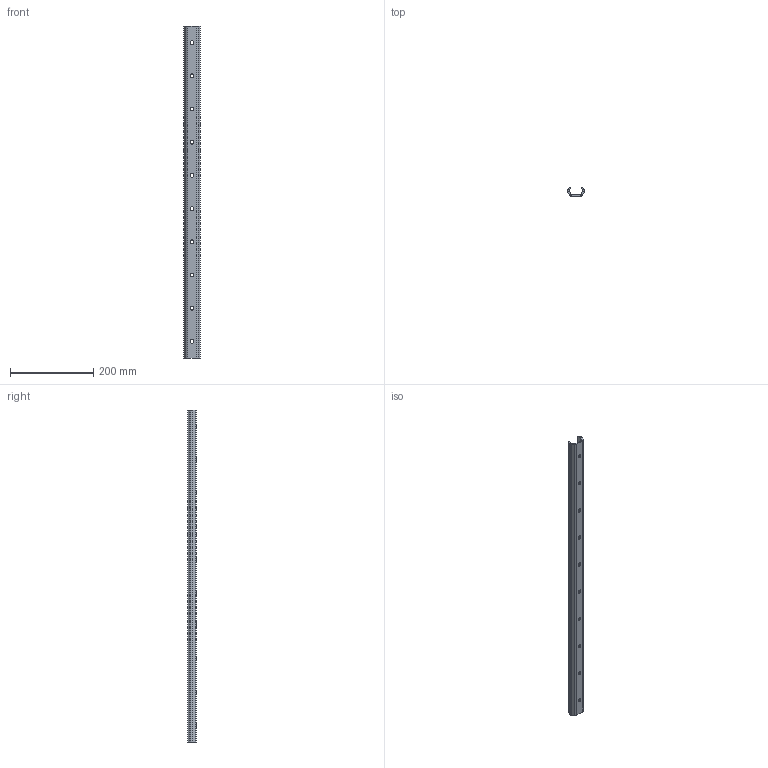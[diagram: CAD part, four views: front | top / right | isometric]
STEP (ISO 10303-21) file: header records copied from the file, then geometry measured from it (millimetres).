
FILE_DESCRIPTION(('STEP AP214'),'1');
FILE_NAME('rail_tex40-800.stp','2019-03-08T08:32:57',('TraceParts'),('TraceParts S.A.'),'Spatial InterOp 3D',' ',' ');
FILE_SCHEMA(('automotive_design'));
Length unit declared in the file: millimetre
Products named in the file (1): rail_tex40-800
Bounding box: 39.53 x 21 x 800 mm (x, y, z)
Volume: 156397.7 mm3; surface area: 110466.6 mm2
Topology: 1 solids, 1 shells, 217 faces, 564 edges, 376 vertices
Faces by surface type: plane 152, bspline 33, cylinder 32
Entity records: 13433 total; most frequent: CARTESIAN_POINT 6459, ORIENTED_EDGE 1128, DIRECTION 932, EDGE_CURVE 564, LINE 434, VECTOR 434, VERTEX_POINT 376, EDGE_LOOP 264
